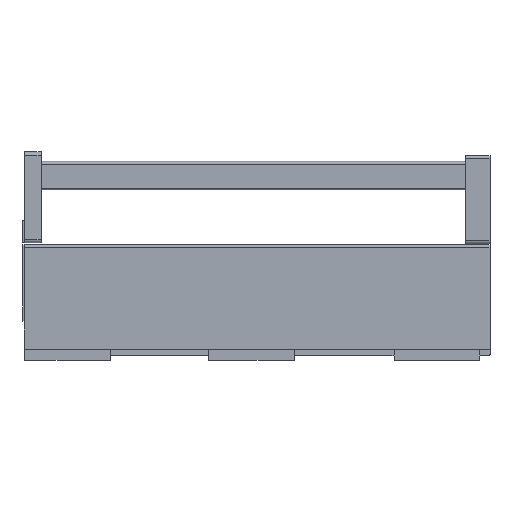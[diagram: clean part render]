
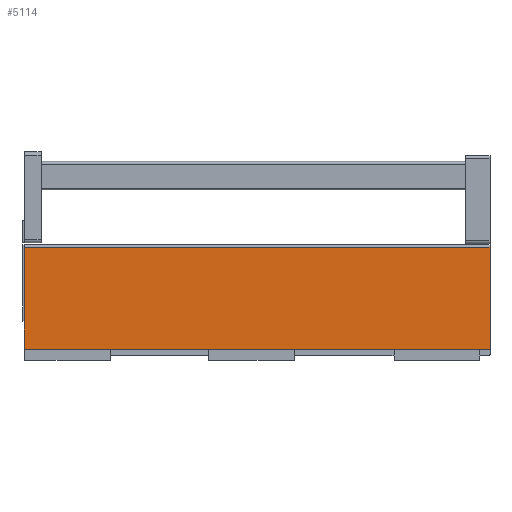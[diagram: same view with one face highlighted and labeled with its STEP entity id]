
A CAD part, left-side view. The second image highlights one B-rep face of the part: STEP entity #5114.
In plain terms, the highlighted planar face has unit normal (-1, 0, 0).
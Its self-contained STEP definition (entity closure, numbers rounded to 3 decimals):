
#19 = DIRECTION ( 'NONE',  ( 0., -1., 0. ) ) ;
#24 = CARTESIAN_POINT ( 'NONE',  ( -4.1, 490., 78.498 ) ) ;
#167 = EDGE_CURVE ( 'NONE', #5314, #5531, #750, .T. ) ;
#177 = EDGE_CURVE ( 'NONE', #5314, #5332, #865, .T. ) ;
#312 = EDGE_CURVE ( 'NONE', #5531, #5577, #5714, .T. ) ;
#640 = EDGE_CURVE ( 'NONE', #5332, #5577, #3903, .T. ) ;
#750 = LINE ( 'NONE', #5222, #880 ) ;
#859 = VECTOR ( 'NONE', #19, 1000. ) ;
#865 = LINE ( 'NONE', #24, #859 ) ;
#880 = VECTOR ( 'NONE', #5211, 1000. ) ;
#1593 = EDGE_LOOP ( 'NONE', ( #2292, #2291, #2290, #2289 ) ) ;
#2289 = ORIENTED_EDGE ( 'NONE', *, *, #312, .T. ) ;
#2290 = ORIENTED_EDGE ( 'NONE', *, *, #167, .T. ) ;
#2291 = ORIENTED_EDGE ( 'NONE', *, *, #177, .F. ) ;
#2292 = ORIENTED_EDGE ( 'NONE', *, *, #640, .F. ) ;
#2331 = AXIS2_PLACEMENT_3D ( 'NONE', #3369, #3375, #3376 ) ;
#2549 = CARTESIAN_POINT ( 'NONE',  ( -4.1, 490., -28.503 ) ) ;
#2550 = DIRECTION ( 'NONE',  ( 0., -1., 0. ) ) ;
#3236 = CARTESIAN_POINT ( 'NONE',  ( -4.1, 0., -28.503 ) ) ;
#3237 = DIRECTION ( 'NONE',  ( 0., 0., -1. ) ) ;
#3366 = PLANE ( 'NONE',  #2331 ) ;
#3369 = CARTESIAN_POINT ( 'NONE',  ( -4.1, 490., -28.503 ) ) ;
#3375 = DIRECTION ( 'NONE',  ( 1., 0., 0. ) ) ;
#3376 = DIRECTION ( 'NONE',  ( 0., 0., -1. ) ) ;
#3532 = CARTESIAN_POINT ( 'NONE',  ( -4.1, 490., 78.498 ) ) ;
#3550 = CARTESIAN_POINT ( 'NONE',  ( -4.1, 0., 78.498 ) ) ;
#3903 = LINE ( 'NONE', #3236, #3904 ) ;
#3904 = VECTOR ( 'NONE', #3237, 1000. ) ;
#3986 = FACE_OUTER_BOUND ( 'NONE', #1593, .T. ) ;
#4320 = CARTESIAN_POINT ( 'NONE',  ( -4.1, 490., -28.503 ) ) ;
#4362 = CARTESIAN_POINT ( 'NONE',  ( -4.1, 0., -28.503 ) ) ;
#5114 = ADVANCED_FACE ( 'NONE', ( #3986 ), #3366, .F. ) ;
#5211 = DIRECTION ( 'NONE',  ( 0., 0., -1. ) ) ;
#5222 = CARTESIAN_POINT ( 'NONE',  ( -4.1, 490., 64.411 ) ) ;
#5314 = VERTEX_POINT ( 'NONE', #3532 ) ;
#5332 = VERTEX_POINT ( 'NONE', #3550 ) ;
#5531 = VERTEX_POINT ( 'NONE', #4320 ) ;
#5577 = VERTEX_POINT ( 'NONE', #4362 ) ;
#5713 = VECTOR ( 'NONE', #2550, 1000. ) ;
#5714 = LINE ( 'NONE', #2549, #5713 ) ;
